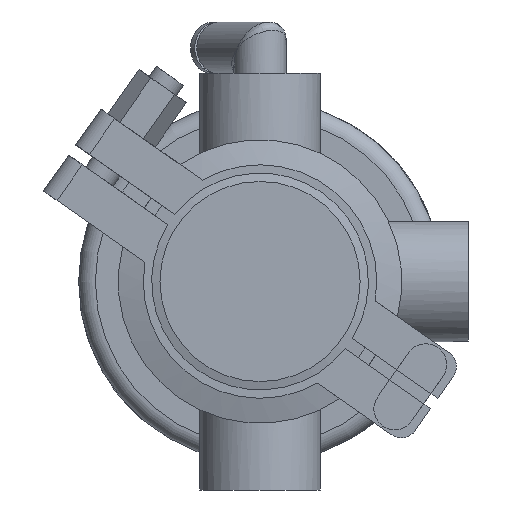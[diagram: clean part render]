
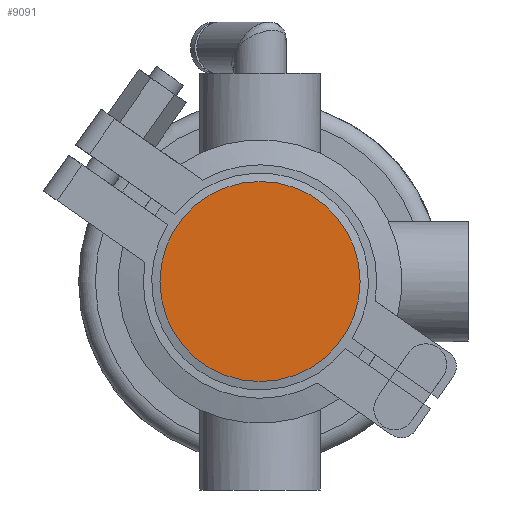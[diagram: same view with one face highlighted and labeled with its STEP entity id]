
A CAD part, front view. The second image highlights one B-rep face of the part: STEP entity #9091.
In plain terms, the highlighted planar face has unit normal (0, -1, 0).
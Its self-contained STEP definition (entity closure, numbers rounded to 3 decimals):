
#1656 = DIRECTION ( 'NONE',  ( 0., 0., 1. ) ) ;
#4622 = AXIS2_PLACEMENT_3D ( 'NONE', #9264, #9158, #1656 ) ;
#4964 = CIRCLE ( 'NONE', #4622, 24. ) ;
#5534 = ORIENTED_EDGE ( 'NONE', *, *, #9064, .F. ) ;
#6799 = EDGE_LOOP ( 'NONE', ( #5534 ) ) ;
#9064 = EDGE_CURVE ( 'NONE', #9637, #9637, #4964, .T. ) ;
#9091 = ADVANCED_FACE ( 'NONE', ( #15642 ), #9555, .T. ) ;
#9158 = DIRECTION ( 'NONE',  ( 0., 1., 0. ) ) ;
#9264 = CARTESIAN_POINT ( 'NONE',  ( 0., 0., 0. ) ) ;
#9555 = PLANE ( 'NONE',  #14271 ) ;
#9637 = VERTEX_POINT ( 'NONE', #11308 ) ;
#11308 = CARTESIAN_POINT ( 'NONE',  ( 0., 0., 24. ) ) ;
#12387 = DIRECTION ( 'NONE',  ( 0., 0., -1. ) ) ;
#14062 = CARTESIAN_POINT ( 'NONE',  ( -24., 0., 0. ) ) ;
#14264 = DIRECTION ( 'NONE',  ( 0., -1., 0. ) ) ;
#14271 = AXIS2_PLACEMENT_3D ( 'NONE', #14062, #14264, #12387 ) ;
#15642 = FACE_OUTER_BOUND ( 'NONE', #6799, .T. ) ;
